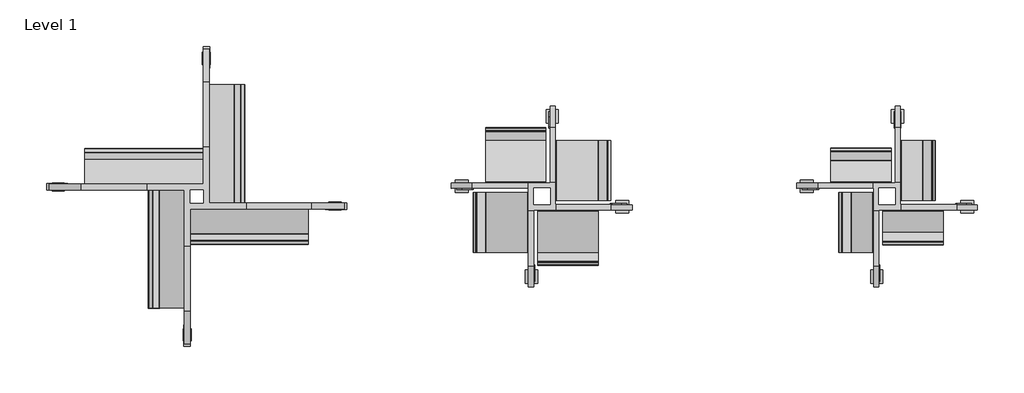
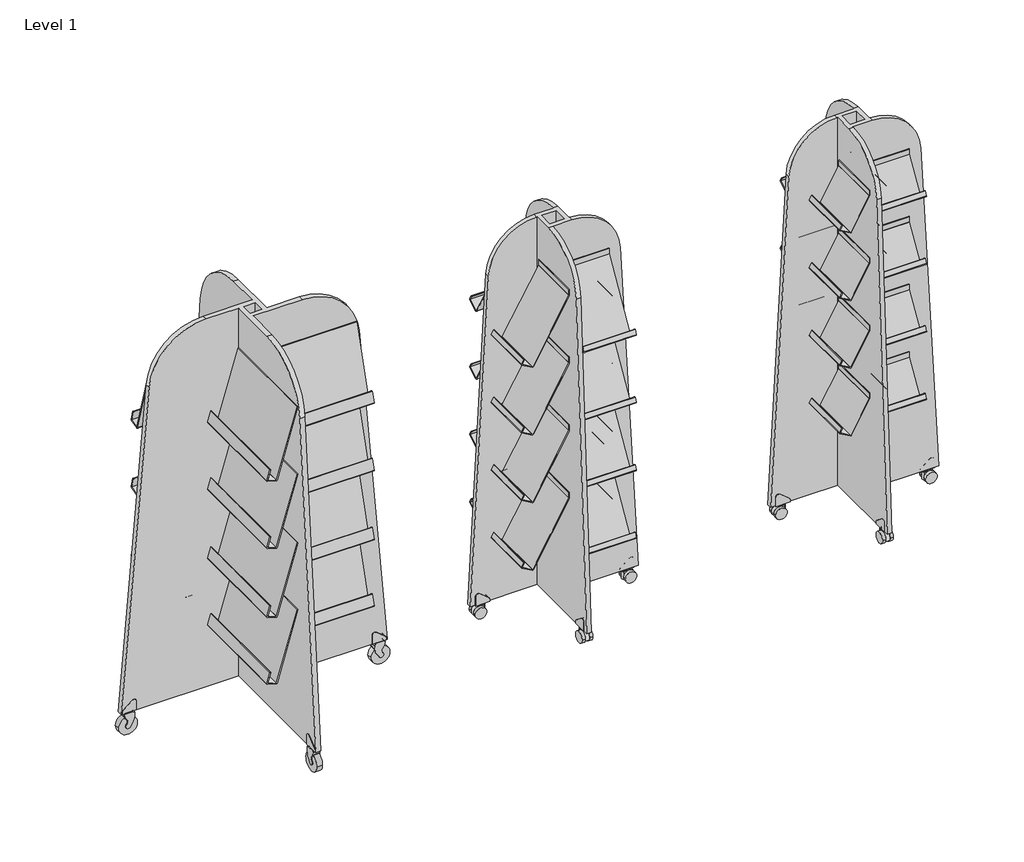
# One storey: 3 furniture elements.
"""IFC4 building model written with IfcOpenShell, lengths in millimetres."""

from ifc_helpers import new_model, si_unit, origin, place, context, project, spatial, transform, mapped, element, save
from components import bk_library_media_tower_a3_bk_library_media_tower_a3_d0b234ae, bk_library_media_tower_a4_bk_library_media_tower_a4_59d103bd, bk_library_media_tower_a4_bk_library_media_tower_a4_1ec3d4eb, bk_library_media_tower_a5_bk_library_media_tower_a5_089887bc

model = new_model("IFC4")

# Units and contexts
model_context = context("Model", 3, world=origin())
ifc_project = project(units=[si_unit("LENGTHUNIT", "METRE", prefix="MILLI")], contexts=[model_context])

# Site, building, storey
site = spatial("IfcSite", under=ifc_project)
building = spatial("IfcBuilding", under=site)
storey = spatial("IfcBuildingStorey", under=building, Name="Level 1", Elevation=0.0)

# Furniture
placement = place(None, origin())
bk_library_media_tower_a3_bk_library_media_tower_a3_shape = bk_library_media_tower_a3_bk_library_media_tower_a3_d0b234ae(model_context)
element("IfcFurniture", 1, ObjectType="BK Library - Media Tower - A3 : BK Library - Media Tower - A3", at=placement, inside=storey, context=model_context, shape_type="MappedRepresentation", body=[
    mapped(bk_library_media_tower_a3_bk_library_media_tower_a3_shape, transform((-3149.7402318, 2197.9079464, -668.6569781), x_axis=(0.0, 1.0, 0.0), y_axis=(-1.0, 0.0, 0.0), z_axis=(0.0, 0.0, 1.0))),
])
bk_library_media_tower_a4_bk_library_media_tower_a4_shape = bk_library_media_tower_a4_bk_library_media_tower_a4_59d103bd(model_context)
bk_library_media_tower_a4_bk_library_media_tower_a4_2_shape = bk_library_media_tower_a4_bk_library_media_tower_a4_1ec3d4eb(model_context)
element("IfcFurniture", 2, ObjectType="BK Library - Media Tower - A4 : BK Library - Media Tower - A4", at=placement, inside=storey, context=model_context, shape_type="MappedRepresentation", body=[
    mapped(bk_library_media_tower_a4_bk_library_media_tower_a4_shape, transform((-1889.7402318, 2197.9079464, -668.6569781), x_axis=(0.0, 1.0, 0.0), y_axis=(-1.0, 0.0, 0.0), z_axis=(0.0, 0.0, 1.0))),
    mapped(bk_library_media_tower_a4_bk_library_media_tower_a4_2_shape, transform((-1889.7402318, 2197.9079464, -668.6569781), x_axis=(0.0, 1.0, 0.0), y_axis=(-1.0, 0.0, 0.0), z_axis=(0.0, 0.0, 1.0))),
])
bk_library_media_tower_a5_bk_library_media_tower_a5_shape = bk_library_media_tower_a5_bk_library_media_tower_a5_089887bc(model_context)
element("IfcFurniture", 3, ObjectType="BK Library - Media Tower - A5 : BK Library - Media Tower - A5", at=placement, inside=storey, context=model_context, shape_type="MappedRepresentation", body=[
    mapped(bk_library_media_tower_a5_bk_library_media_tower_a5_shape, transform((-629.7402318, 2197.9079464, -668.6569781), x_axis=(0.0, 1.0, 0.0), y_axis=(-1.0, 0.0, 0.0), z_axis=(0.0, 0.0, 1.0))),
    mapped(bk_library_media_tower_a4_bk_library_media_tower_a4_2_shape, transform((-629.7402318, 2197.9079464, -668.6569781), x_axis=(0.0, 1.0, 0.0), y_axis=(-1.0, 0.0, 0.0), z_axis=(0.0, 0.0, 1.0))),
])

save(model, "model.ifc")
